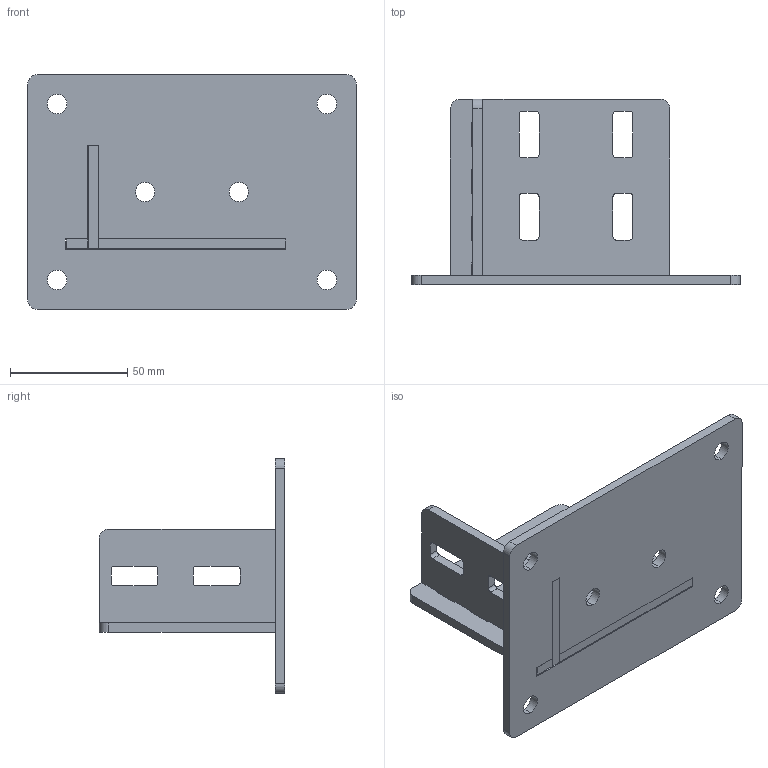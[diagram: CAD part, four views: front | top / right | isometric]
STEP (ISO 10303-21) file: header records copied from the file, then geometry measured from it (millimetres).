
FILE_DESCRIPTION (( 'STEP AP203' ), '1' );
FILE_NAME ('11402.STEP', '2016-08-02T12:13:40', ( '' ), ( '' ), 'SwSTEP 2.0', 'SolidWorks 2014', '' );
FILE_SCHEMA (( 'CONFIG_CONTROL_DESIGN' ));
Length unit declared in the file: millimetre
Products named in the file (7): 11402; 11402-1; 11402-2; 11402-3
Assembly tree (3 placements, depth 2):
  11402
    11402-1
    11402-2
    11402-3
  11402-1
  11402-2
  11402-3
Bounding box: 140 x 79 x 100 mm (x, y, z)
Volume: 90225.5 mm3; surface area: 52921.2 mm2
Topology: 3 solids, 3 shells, 123 faces, 351 edges, 234 vertices
Faces by surface type: plane 80, cylinder 43
Entity records: 4715 total; most frequent: CARTESIAN_POINT 715, ORIENTED_EDGE 702, DIRECTION 697, EDGE_CURVE 351, LINE 265, VECTOR 265, VERTEX_POINT 234, AXIS2_PLACEMENT_3D 216
